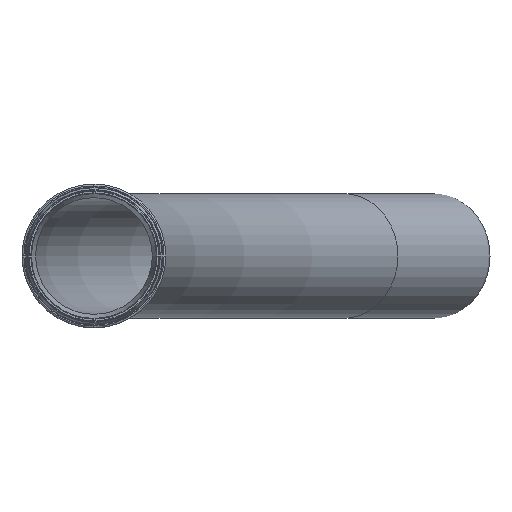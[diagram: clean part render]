
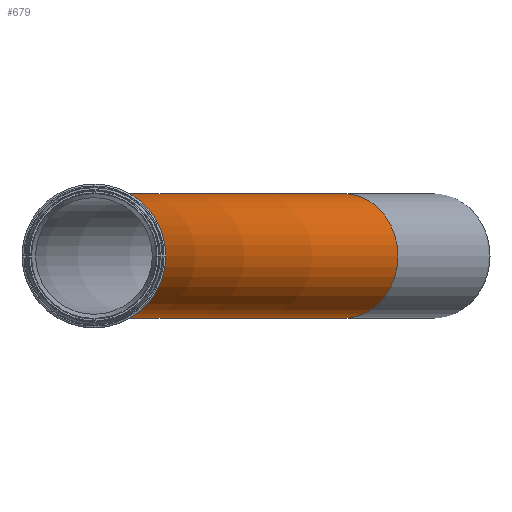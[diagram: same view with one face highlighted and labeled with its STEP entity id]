
A CAD part, left-side view. The second image highlights one B-rep face of the part: STEP entity #679.
In plain terms, the highlighted toroidal (fillet/blend) face has major radius 3000 mm and minor radius 100 mm.
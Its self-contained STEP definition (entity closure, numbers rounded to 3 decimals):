
#37=TOROIDAL_SURFACE('',#756,3000.,100.);
#56=FACE_OUTER_BOUND('',#98,.T.);
#98=EDGE_LOOP('',(#470,#471,#472,#473,#474,#475,#476,#477));
#195=CIRCLE('',#757,100.);
#196=CIRCLE('',#758,100.);
#197=CIRCLE('',#759,2900.);
#198=CIRCLE('',#760,100.);
#199=CIRCLE('',#761,100.);
#200=CIRCLE('',#762,100.);
#201=CIRCLE('',#763,100.);
#281=VERTEX_POINT('',#1182);
#282=VERTEX_POINT('',#1183);
#283=VERTEX_POINT('',#1185);
#284=VERTEX_POINT('',#1187);
#285=VERTEX_POINT('',#1189);
#286=VERTEX_POINT('',#1192);
#356=EDGE_CURVE('',#281,#282,#195,.T.);
#357=EDGE_CURVE('',#283,#281,#196,.T.);
#358=EDGE_CURVE('',#283,#284,#197,.T.);
#359=EDGE_CURVE('',#285,#284,#198,.T.);
#360=EDGE_CURVE('',#284,#285,#199,.T.);
#361=EDGE_CURVE('',#286,#283,#200,.T.);
#362=EDGE_CURVE('',#282,#286,#201,.T.);
#470=ORIENTED_EDGE('',*,*,#356,.F.);
#471=ORIENTED_EDGE('',*,*,#357,.F.);
#472=ORIENTED_EDGE('',*,*,#358,.T.);
#473=ORIENTED_EDGE('',*,*,#359,.F.);
#474=ORIENTED_EDGE('',*,*,#360,.F.);
#475=ORIENTED_EDGE('',*,*,#358,.F.);
#476=ORIENTED_EDGE('',*,*,#361,.F.);
#477=ORIENTED_EDGE('',*,*,#362,.F.);
#679=ADVANCED_FACE('',(#56),#37,.T.);
#756=AXIS2_PLACEMENT_3D('',#1181,#906,#907);
#757=AXIS2_PLACEMENT_3D('',#1184,#908,#909);
#758=AXIS2_PLACEMENT_3D('',#1186,#910,#911);
#759=AXIS2_PLACEMENT_3D('',#1188,#912,#913);
#760=AXIS2_PLACEMENT_3D('',#1190,#914,#915);
#761=AXIS2_PLACEMENT_3D('',#1191,#916,#917);
#762=AXIS2_PLACEMENT_3D('',#1193,#918,#919);
#763=AXIS2_PLACEMENT_3D('',#1194,#920,#921);
#906=DIRECTION('center_axis',(0.,0.,-1.));
#907=DIRECTION('ref_axis',(-1.,0.,0.));
#908=DIRECTION('center_axis',(0.866,-0.5,0.));
#909=DIRECTION('ref_axis',(0.5,0.866,0.));
#910=DIRECTION('center_axis',(0.866,-0.5,0.));
#911=DIRECTION('ref_axis',(0.5,0.866,0.));
#912=DIRECTION('center_axis',(0.,0.,1.));
#913=DIRECTION('ref_axis',(-1.,0.,0.));
#914=DIRECTION('center_axis',(-1.,0.,0.));
#915=DIRECTION('ref_axis',(0.,0.,1.));
#916=DIRECTION('center_axis',(-1.,0.,0.));
#917=DIRECTION('ref_axis',(0.,0.,1.));
#918=DIRECTION('center_axis',(0.866,-0.5,0.));
#919=DIRECTION('ref_axis',(0.5,0.866,0.));
#920=DIRECTION('center_axis',(0.866,-0.5,0.));
#921=DIRECTION('ref_axis',(0.5,0.866,0.));
#1181=CARTESIAN_POINT('Origin',(407.,-3000.,0.));
#1182=CARTESIAN_POINT('',(1907.,-401.924,-100.));
#1183=CARTESIAN_POINT('',(1957.,-315.321,0.));
#1184=CARTESIAN_POINT('Origin',(1907.,-401.924,0.));
#1185=CARTESIAN_POINT('',(1857.,-488.527,0.));
#1186=CARTESIAN_POINT('Origin',(1907.,-401.924,0.));
#1187=CARTESIAN_POINT('',(407.,-100.,0.));
#1188=CARTESIAN_POINT('Origin',(407.,-3000.,0.));
#1189=CARTESIAN_POINT('',(407.,100.,0.));
#1190=CARTESIAN_POINT('Origin',(407.,0.,0.));
#1191=CARTESIAN_POINT('Origin',(407.,0.,0.));
#1192=CARTESIAN_POINT('',(1907.,-401.924,100.));
#1193=CARTESIAN_POINT('Origin',(1907.,-401.924,0.));
#1194=CARTESIAN_POINT('Origin',(1907.,-401.924,0.));
